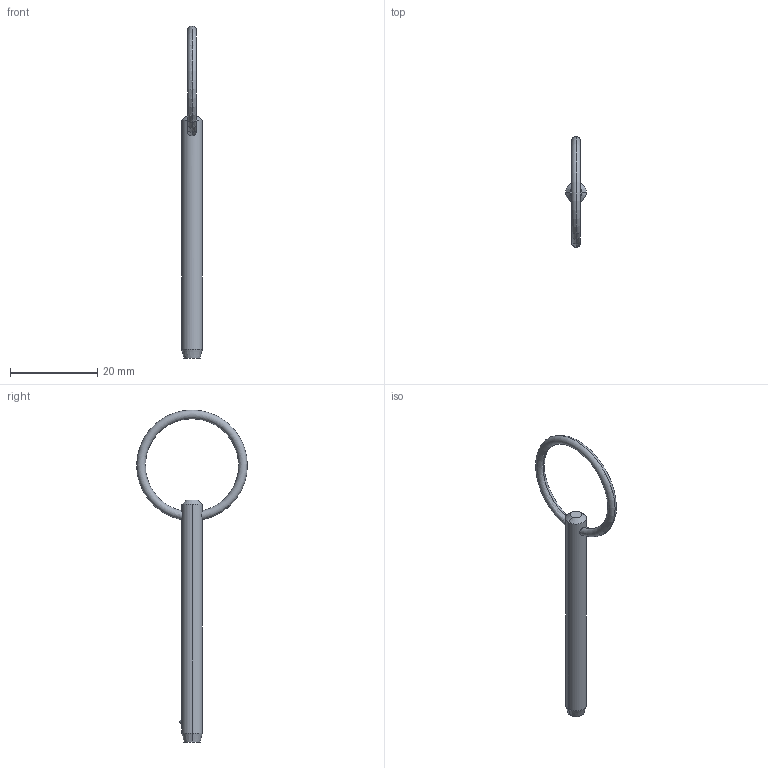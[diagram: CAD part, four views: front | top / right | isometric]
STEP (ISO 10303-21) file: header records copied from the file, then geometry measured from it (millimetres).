
FILE_DESCRIPTION (( 'STEP AP203' ), '1' );
FILE_NAME ('P1250.018-180.step', '2019-07-29T19:32:36', ( '' ), ( '' ), 'SwSTEP 2.0', 'SolidWorks 2017', '' );
FILE_SCHEMA (( 'CONFIG_CONTROL_DESIGN' ));
Length unit declared in the file: millimetre
Products named in the file (1): P1250.018-180
Bounding box: 4.76 x 25.4 x 76.18 mm (x, y, z)
Volume: 1190.5 mm3; surface area: 1273.4 mm2
Topology: 1 solids, 1 shells, 12 faces, 28 edges, 17 vertices
Faces by surface type: cone 4, torus 2, sphere 2, cylinder 2, plane 2
Entity records: 471 total; most frequent: CARTESIAN_POINT 138, DIRECTION 56, ORIENTED_EDGE 48, AXIS2_PLACEMENT_3D 25, EDGE_CURVE 24, VERTEX_POINT 15, EDGE_LOOP 15, FACE_OUTER_BOUND 12
